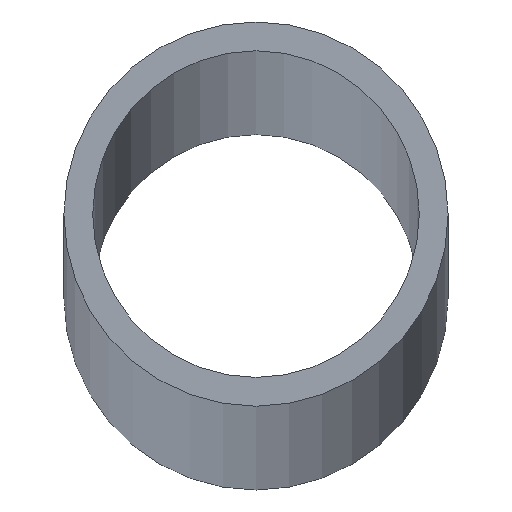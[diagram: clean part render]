
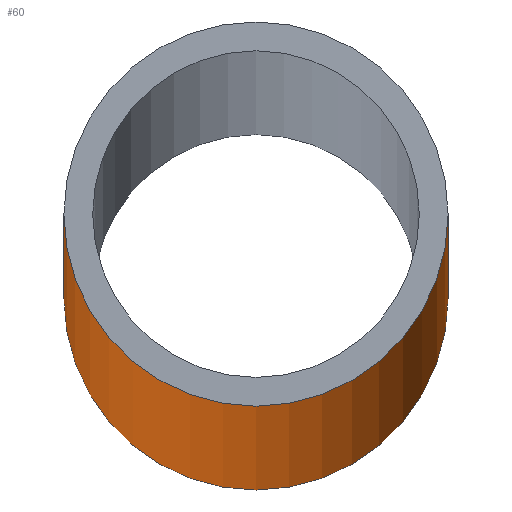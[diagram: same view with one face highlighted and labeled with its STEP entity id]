
A CAD part, top view. The second image highlights one B-rep face of the part: STEP entity #60.
In plain terms, the highlighted cylindrical face has radius 20 mm (diameter 40 mm), a full revolution.
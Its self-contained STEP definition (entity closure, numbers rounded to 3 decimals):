
#17=FACE_BOUND('',#27,.T.);
#21=FACE_OUTER_BOUND('',#26,.T.);
#26=EDGE_LOOP('',(#46));
#27=EDGE_LOOP('',(#47));
#34=CIRCLE('',#87,20.);
#35=CIRCLE('',#88,20.);
#38=VERTEX_POINT('',#116);
#39=VERTEX_POINT('',#118);
#42=EDGE_CURVE('',#38,#38,#34,.T.);
#43=EDGE_CURVE('',#39,#39,#35,.T.);
#46=ORIENTED_EDGE('',*,*,#42,.F.);
#47=ORIENTED_EDGE('',*,*,#43,.F.);
#53=CYLINDRICAL_SURFACE('',#86,20.);
#60=ADVANCED_FACE('',(#21,#17),#53,.T.);
#86=AXIS2_PLACEMENT_3D('',#115,#99,#100);
#87=AXIS2_PLACEMENT_3D('',#117,#101,#102);
#88=AXIS2_PLACEMENT_3D('',#119,#103,#104);
#99=DIRECTION('center_axis',(0.,0.,1.));
#100=DIRECTION('ref_axis',(-1.,0.,0.));
#101=DIRECTION('center_axis',(0.,0.,1.));
#102=DIRECTION('ref_axis',(-1.,0.,0.));
#103=DIRECTION('center_axis',(0.,0.,-1.));
#104=DIRECTION('ref_axis',(-1.,0.,0.));
#115=CARTESIAN_POINT('Origin',(0.,0.,0.));
#116=CARTESIAN_POINT('',(20.,0.,5000.));
#117=CARTESIAN_POINT('Origin',(0.,0.,5000.));
#118=CARTESIAN_POINT('',(20.,0.,0.));
#119=CARTESIAN_POINT('Origin',(0.,0.,0.));
